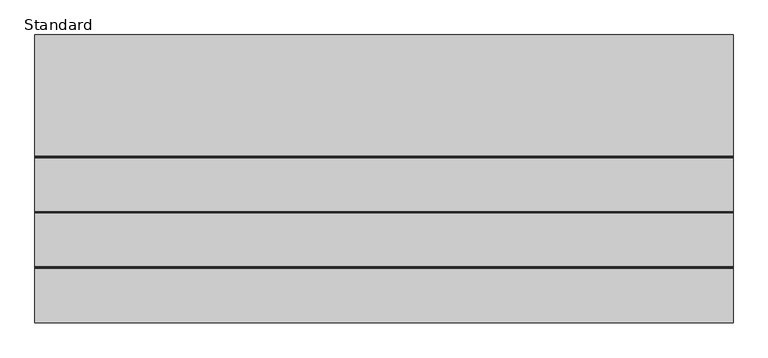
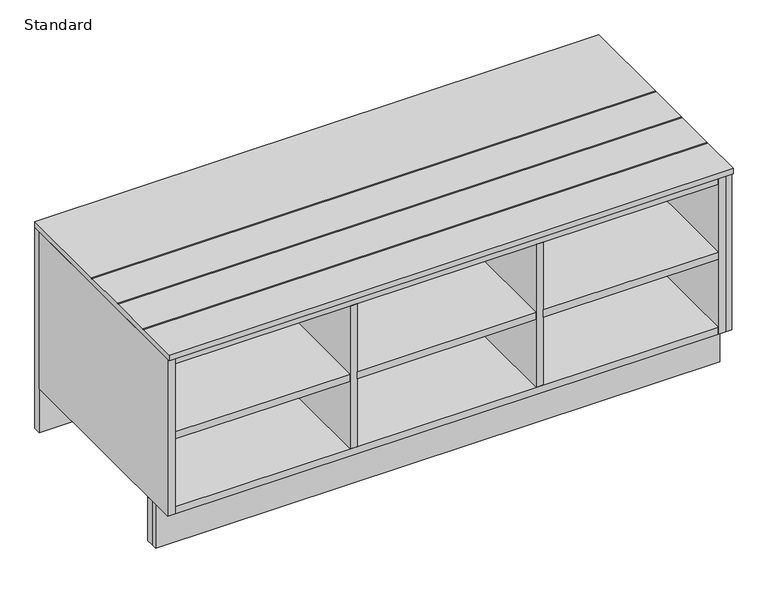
"""IFC4 building model written with IfcOpenShell, lengths in millimetres: furniture geometry, X_Locker-Duracube-Shoe Box : Standard."""

from ifc_helpers import new_model, si_unit, frame, origin, origin_with_axes, place, context, project, spatial, polyline, outline, extrude, source, transform, mapped, element, save


def standard_04b66620(model_context):
    return source(origin(), model_context, "Body", "SweptSolid", [
        extrude(outline(polyline([(-292.5, 457.0), (-792.5, 457.0), (-792.5, 470.0), (-698.5, 470.0), (-696.5, 468.0), (-694.5, 470.0), (-602.5, 470.0), (-600.5, 468.0), (-598.5, 470.0), (-506.5, 470.0), (-504.5, 468.0), (-502.5, 470.0), (-292.5, 470.0), (-292.5, 457.0)])), frame((-561.7996736, 0.0, 0.0), z_axis=(1.0, 0.0, 0.0), x_axis=(0.0, 1.0, 0.0)), (0.0, 0.0, 1.0), 1213.0),
        extrude(outline(polyline([(622.2003264, -308.5), (622.2003264, -787.5), (246.2003264, -787.5), (246.2003264, -308.5), (622.2003264, -308.5)])), frame((0.0, 0.0, 270.5), z_axis=(0.0, 0.0, 1.0), x_axis=(1.0, 0.0, 0.0)), (0.0, 0.0, 1.0), 16.0),
        extrude(outline(polyline([(230.2003264, -308.5), (230.2003264, -787.5), (-153.7996736, -787.5), (-153.7996736, -308.5), (230.2003264, -308.5)])), frame((0.0, 0.0, 270.5), z_axis=(0.0, 0.0, 1.0), x_axis=(1.0, 0.0, 0.0)), (0.0, 0.0, 1.0), 16.0),
        extrude(outline(polyline([(246.2003264, -308.5), (246.2003264, -787.5), (230.2003264, -787.5), (230.2003264, -308.5), (246.2003264, -308.5)])), frame((0.0, 0.0, 116.0), z_axis=(0.0, 0.0, 1.0), x_axis=(1.0, 0.0, 0.0)), (0.0, 0.0, 1.0), 325.0),
        extrude(outline(polyline([(-153.7996736, -308.5), (-153.7996736, -787.5), (-169.7996736, -787.5), (-169.7996736, -308.5), (-153.7996736, -308.5)])), frame((0.0, 0.0, 116.0), z_axis=(0.0, 0.0, 1.0), x_axis=(1.0, 0.0, 0.0)), (0.0, 0.0, 1.0), 325.0),
        extrude(outline(polyline([(638.2003264, -308.5), (638.2003264, -787.5), (622.2003264, -787.5), (622.2003264, -308.5), (638.2003264, -308.5)])), frame((0.0, 0.0, 100.0), z_axis=(0.0, 0.0, 1.0), x_axis=(1.0, 0.0, 0.0)), (0.0, 0.0, 1.0), 357.0),
        extrude(outline(polyline([(-545.7996736, -308.5), (-545.7996736, -787.5), (-561.7996736, -787.5), (-561.7996736, -308.5), (-545.7996736, -308.5)])), frame((0.0, 0.0, 100.0), z_axis=(0.0, 0.0, 1.0), x_axis=(1.0, 0.0, 0.0)), (0.0, 0.0, 1.0), 357.0),
        extrude(outline(polyline([(-169.7996736, -308.5), (-169.7996736, -787.5), (-545.7996736, -787.5), (-545.7996736, -308.5), (-169.7996736, -308.5)])), frame((0.0, 0.0, 270.5), z_axis=(0.0, 0.0, 1.0), x_axis=(1.0, 0.0, 0.0)), (0.0, 0.0, 1.0), 16.0),
        extrude(outline(polyline([(622.2003264, -308.5), (622.2003264, -787.5), (-545.7996736, -787.5), (-545.7996736, -308.5), (622.2003264, -308.5)])), frame((0.0, 0.0, 441.0), z_axis=(0.0, 0.0, 1.0), x_axis=(1.0, 0.0, 0.0)), (0.0, 0.0, 1.0), 16.0),
        extrude(outline(polyline([(622.2003264, -308.5), (622.2003264, -787.5), (-545.7996736, -787.5), (-545.7996736, -308.5), (622.2003264, -308.5)])), frame((0.0, 0.0, 100.0), z_axis=(0.0, 0.0, 1.0), x_axis=(1.0, 0.0, 0.0)), (0.0, 0.0, 1.0), 16.0),
        extrude(outline(polyline([(-787.5, 457.0), (-292.5, 457.0), (-292.5, 0.0), (-729.5, 0.0), (-729.5, 100.0), (-787.5, 100.0), (-787.5, 457.0)])), frame((638.2003264, 0.0, 0.0), z_axis=(1.0, 0.0, 0.0), x_axis=(0.0, 1.0, 0.0)), (0.0, 0.0, 1.0), 13.0),
        extrude(outline(polyline([(638.2003264, -292.5), (638.2003264, -308.5), (-561.7996736, -308.5), (-561.7996736, -292.5), (638.2003264, -292.5)])), origin_with_axes(), (0.0, 0.0, 1.0), 457.0),
        extrude(outline(polyline([(638.2003264, -713.5), (638.2003264, -729.5), (-561.7996736, -729.5), (-561.7996736, -713.5), (638.2003264, -713.5)])), origin_with_axes(), (0.0, 0.0, 1.0), 100.0),
        extrude(outline(polyline([(651.2003264, -729.5), (651.2003264, -742.5), (-561.7996736, -742.5), (-561.7996736, -729.5), (651.2003264, -729.5)])), origin_with_axes(), (0.0, 0.0, 1.0), 100.0),
    ])


if __name__ == "__main__":
    model = new_model("IFC4")
    model_context = context("Model", 3, world=origin())
    ifc_project = project(units=[si_unit("LENGTHUNIT", "METRE", prefix="MILLI")], contexts=[model_context])
    site = spatial("IfcSite", under=ifc_project)
    building = spatial("IfcBuilding", under=site)
    placement = place(None, origin())
    standard_shape = standard_04b66620(model_context)
    element("IfcFurniture", 1, ObjectType="X_Locker-Duracube-Shoe Box : Standard", at=placement, inside=building, context=model_context, shape_type="MappedRepresentation", body=[
        mapped(standard_shape, transform((0.0, 0.0, 0.0), x_axis=(1.0, 0.0, 0.0), y_axis=(0.0, 1.0, 0.0), z_axis=(0.0, 0.0, 1.0))),
    ])
    save(model, "model.ifc")
